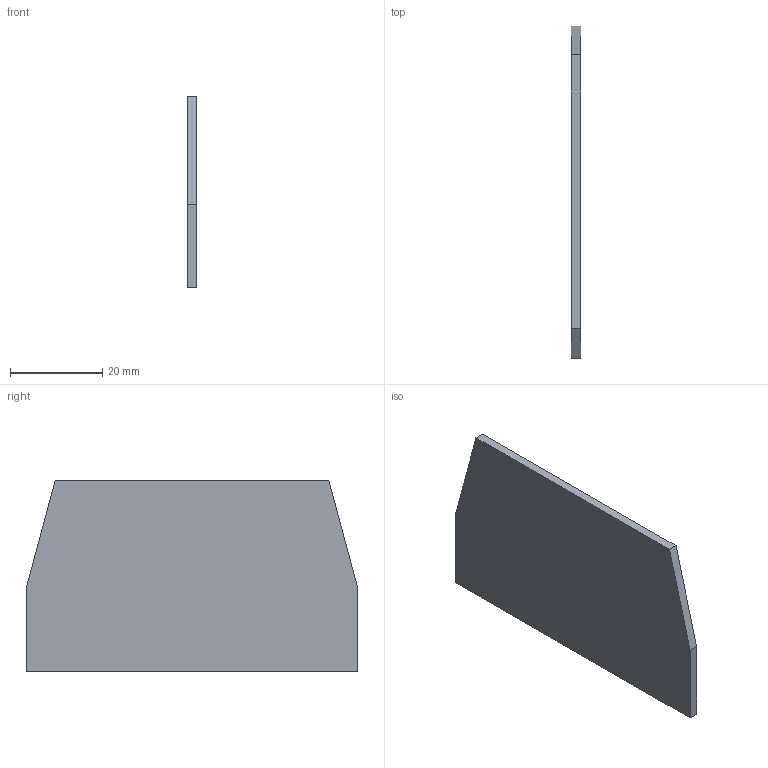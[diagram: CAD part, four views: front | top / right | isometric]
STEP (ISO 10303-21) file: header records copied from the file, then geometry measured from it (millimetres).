
FILE_DESCRIPTION(('STEP AP203'),'1');
FILE_NAME('0310020.stp','2022-07-02T09:32:43',('TraceParts'),('TraceParts S.A.'),'Spatial InterOp 3D',' ',' ');
FILE_SCHEMA(('CONFIG_CONTROL_DESIGN'));
Length unit declared in the file: millimetre
Products named in the file (1): 1
Bounding box: 2 x 71.8 x 41.5 mm (x, y, z)
Volume: 5663.5 mm3; surface area: 6094.8 mm2
Topology: 1 solids, 1 shells, 8 faces, 18 edges, 12 vertices
Faces by surface type: plane 8
Entity records: 266 total; most frequent: CARTESIAN_POINT 39, DIRECTION 36, ORIENTED_EDGE 36, EDGE_CURVE 18, LINE 18, VECTOR 18, VERTEX_POINT 12, AXIS2_PLACEMENT_3D 9
